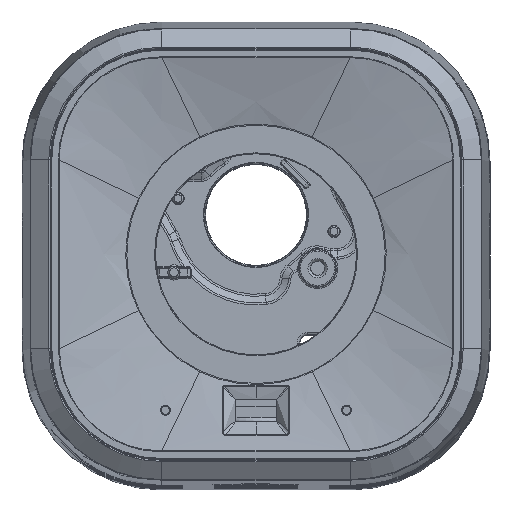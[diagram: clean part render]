
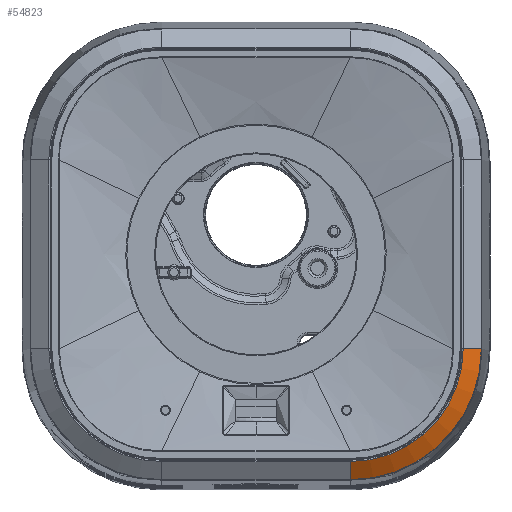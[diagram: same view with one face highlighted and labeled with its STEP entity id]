
A CAD part, top view. The second image highlights one B-rep face of the part: STEP entity #54823.
In plain terms, the highlighted conical face has half-angle 55.783 degrees and reference radius 14.838 mm.
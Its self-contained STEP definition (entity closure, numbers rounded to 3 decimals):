
#1433=CONICAL_SURFACE('',#58535,14.838,0.974);
#3623=CIRCLE('',#58533,13.732);
#3625=CIRCLE('',#58536,15.944);
#7256=FACE_OUTER_BOUND('',#10625,.T.);
#10625=EDGE_LOOP('',(#39678,#39679,#39680,#39681));
#13978=LINE('',#105055,#18202);
#13982=LINE('',#105440,#18206);
#18202=VECTOR('',#65794,2.674);
#18206=VECTOR('',#65826,2.674);
#23926=VERTEX_POINT('',#105048);
#23929=VERTEX_POINT('',#105053);
#23938=VERTEX_POINT('',#105426);
#23940=VERTEX_POINT('',#105438);
#29708=EDGE_CURVE('',#23929,#23926,#13978,.T.);
#29722=EDGE_CURVE('',#23929,#23938,#3623,.T.);
#29725=EDGE_CURVE('',#23940,#23926,#3625,.T.);
#29726=EDGE_CURVE('',#23940,#23938,#13982,.T.);
#39678=ORIENTED_EDGE('',*,*,#29725,.T.);
#39679=ORIENTED_EDGE('',*,*,#29708,.F.);
#39680=ORIENTED_EDGE('',*,*,#29722,.T.);
#39681=ORIENTED_EDGE('',*,*,#29726,.F.);
#54823=ADVANCED_FACE('',(#7256),#1433,.T.);
#58533=AXIS2_PLACEMENT_3D('',#105427,#65818,#65819);
#58535=AXIS2_PLACEMENT_3D('',#105437,#65822,#65823);
#58536=AXIS2_PLACEMENT_3D('',#105439,#65824,#65825);
#65794=DIRECTION('',(0.827,0.,-0.562));
#65818=DIRECTION('center_axis',(0.,0.,
-1.));
#65819=DIRECTION('ref_axis',(1.,0.,0.));
#65822=DIRECTION('center_axis',(0.,0.,
-1.));
#65823=DIRECTION('ref_axis',(-1.,0.,0.));
#65824=DIRECTION('center_axis',(0.,0.,
1.));
#65825=DIRECTION('ref_axis',(0.,-1.,0.));
#65826=DIRECTION('',(0.,0.827,0.562));
#105048=CARTESIAN_POINT('',(27.444,-11.501,-2.462));
#105053=CARTESIAN_POINT('',(25.232,-11.5,-0.958));
#105055=CARTESIAN_POINT('',(25.232,-11.5,-0.958));
#105426=CARTESIAN_POINT('',(11.5,-25.232,-0.958));
#105427=CARTESIAN_POINT('Origin',(11.5,-11.5,-0.958));
#105437=CARTESIAN_POINT('Origin',(11.5,-11.5,-1.71));
#105438=CARTESIAN_POINT('',(11.501,-27.444,-2.462));
#105439=CARTESIAN_POINT('Origin',(11.5,-11.5,-2.462));
#105440=CARTESIAN_POINT('',(11.501,-27.444,-2.462));
